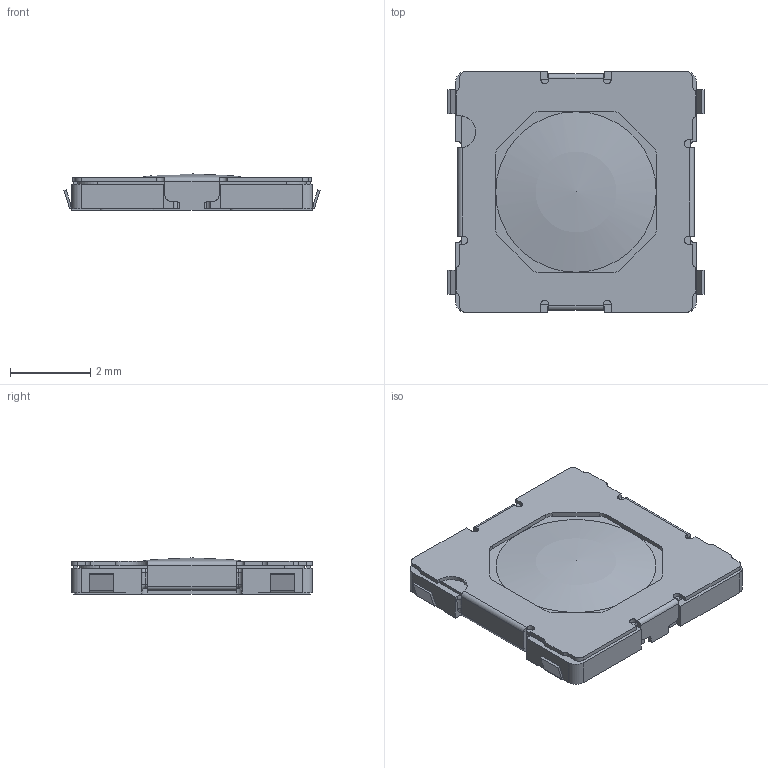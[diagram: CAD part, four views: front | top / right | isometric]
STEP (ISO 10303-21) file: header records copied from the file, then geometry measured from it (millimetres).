
FILE_DESCRIPTION (( 'STEP AP214' ), '1' );
FILE_NAME ('SKRNPD.STEP', '2009-07-13T04:57:40', ( '' ), ( '' ), 'SwSTEP 2.0', 'SolidWorks 2007', '' );
FILE_SCHEMA (( 'AUTOMOTIVE_DESIGN' ));
Length unit declared in the file: millimetre
Products named in the file (1): SKRNPD
Bounding box: 6.38 x 6 x 0.9 mm (x, y, z)
Volume: 27.7 mm3; surface area: 108.4 mm2
Topology: 1 solids, 1 shells, 307 faces, 834 edges, 517 vertices
Faces by surface type: plane 204, cylinder 93, torus 8, sphere 1, bspline 1
Entity records: 11926 total; most frequent: CARTESIAN_POINT 1733, ORIENTED_EDGE 1664, DIRECTION 1624, EDGE_CURVE 832, VECTOR 612, LINE 612, VERTEX_POINT 516, AXIS2_PLACEMENT_3D 506
